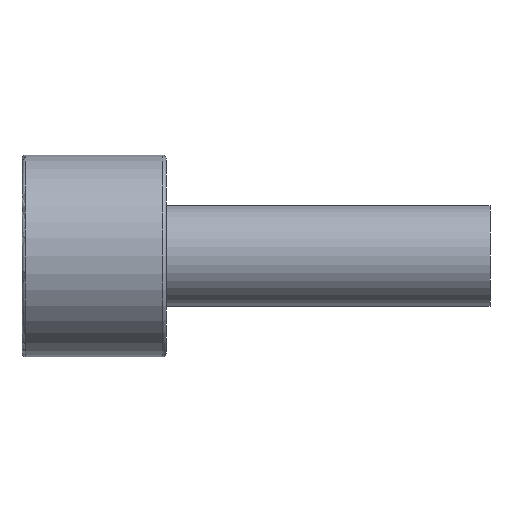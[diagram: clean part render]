
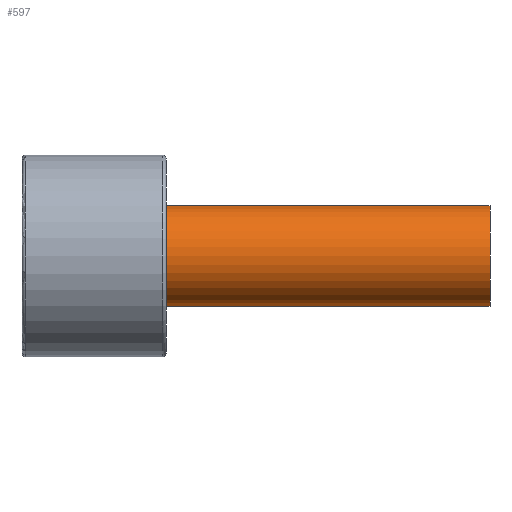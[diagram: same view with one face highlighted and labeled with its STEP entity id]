
A CAD part, front view. The second image highlights one B-rep face of the part: STEP entity #597.
In plain terms, the highlighted cylindrical face has radius 7 mm (diameter 14 mm), a partial arc.
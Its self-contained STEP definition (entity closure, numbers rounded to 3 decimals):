
#431=CARTESIAN_POINT('Vertex',(65.,0.,7.)) ;
#434=CARTESIAN_POINT('Axis2P3D Location',(65.,0.,0.)) ;
#438=CARTESIAN_POINT('Vertex',(65.,-7.,0.)) ;
#441=CARTESIAN_POINT('Axis2P3D Location',(65.,0.,0.)) ;
#445=CARTESIAN_POINT('Vertex',(65.,0.,-7.)) ;
#537=CARTESIAN_POINT('Line Origine',(65.,0.,7.)) ;
#541=CARTESIAN_POINT('Vertex',(20.,0.,7.)) ;
#544=CARTESIAN_POINT('Line Origine',(65.,0.,-7.)) ;
#548=CARTESIAN_POINT('Vertex',(20.,0.,-7.)) ;
#572=CARTESIAN_POINT('Axis2P3D Location',(65.,0.,0.)) ;
#577=CARTESIAN_POINT('Axis2P3D Location',(20.,0.,0.)) ;
#581=CARTESIAN_POINT('Vertex',(20.,-7.,0.)) ;
#584=CARTESIAN_POINT('Axis2P3D Location',(20.,0.,0.)) ;
#435=DIRECTION('Axis2P3D Direction',(1.,0.,-0.)) ;
#442=DIRECTION('Axis2P3D Direction',(1.,0.,-0.)) ;
#538=DIRECTION('Vector Direction',(-1.,0.,0.)) ;
#545=DIRECTION('Vector Direction',(-1.,0.,0.)) ;
#573=DIRECTION('Axis2P3D Direction',(-1.,-0.,-0.)) ;
#574=DIRECTION('Axis2P3D XDirection',(0.,0.,-1.)) ;
#578=DIRECTION('Axis2P3D Direction',(-1.,-0.,-0.)) ;
#585=DIRECTION('Axis2P3D Direction',(-1.,-0.,-0.)) ;
#436=AXIS2_PLACEMENT_3D('Circle Axis2P3D',#434,#435,$) ;
#443=AXIS2_PLACEMENT_3D('Circle Axis2P3D',#441,#442,$) ;
#575=AXIS2_PLACEMENT_3D('Cylinder Axis2P3D',#572,#573,#574) ;
#579=AXIS2_PLACEMENT_3D('Circle Axis2P3D',#577,#578,$) ;
#586=AXIS2_PLACEMENT_3D('Circle Axis2P3D',#584,#585,$) ;
#590=ORIENTED_EDGE('',*,*,#550,.T.) ;
#591=ORIENTED_EDGE('',*,*,#447,.F.) ;
#592=ORIENTED_EDGE('',*,*,#440,.F.) ;
#593=ORIENTED_EDGE('',*,*,#543,.T.) ;
#594=ORIENTED_EDGE('',*,*,#583,.T.) ;
#595=ORIENTED_EDGE('',*,*,#588,.T.) ;
#539=VECTOR('Line Direction',#538,1.) ;
#546=VECTOR('Line Direction',#545,1.) ;
#597=ADVANCED_FACE('367F-14X65',(#596),#576,.T.) ;
#437=CIRCLE('generated circle',#436,7.) ;
#444=CIRCLE('generated circle',#443,7.) ;
#580=CIRCLE('generated circle',#579,7.) ;
#587=CIRCLE('generated circle',#586,7.) ;
#576=CYLINDRICAL_SURFACE('generated cylinder',#575,7.) ;
#440=EDGE_CURVE('',#432,#439,#437,.T.) ;
#447=EDGE_CURVE('',#439,#446,#444,.T.) ;
#543=EDGE_CURVE('',#432,#542,#540,.T.) ;
#550=EDGE_CURVE('',#549,#446,#547,.F.) ;
#583=EDGE_CURVE('',#542,#582,#580,.F.) ;
#588=EDGE_CURVE('',#582,#549,#587,.F.) ;
#589=EDGE_LOOP('',(#590,#591,#592,#593,#594,#595)) ;
#596=FACE_OUTER_BOUND('',#589,.T.) ;
#540=LINE('Line',#537,#539) ;
#547=LINE('Line',#544,#546) ;
#432=VERTEX_POINT('',#431) ;
#439=VERTEX_POINT('',#438) ;
#446=VERTEX_POINT('',#445) ;
#542=VERTEX_POINT('',#541) ;
#549=VERTEX_POINT('',#548) ;
#582=VERTEX_POINT('',#581) ;
